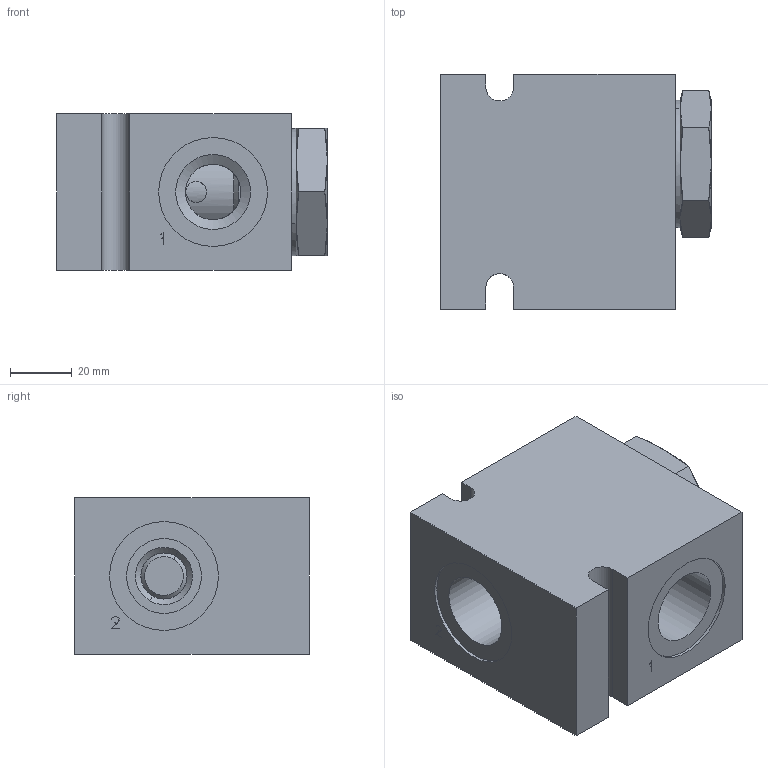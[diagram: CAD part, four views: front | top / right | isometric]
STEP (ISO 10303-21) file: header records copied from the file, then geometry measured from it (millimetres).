
FILE_DESCRIPTION( ( 'Unknown' ), '1' );
FILE_NAME( 'G:/Graphic Design/Graphic Design 2/Data Sheets/MANUAL_MECH OPERATED VALVES/4_STEP/Direct Acting Check Valves/D-SJCVA00-D2.stp', 'Unknown', ( 'Unknown' ), ( 'Unknown' ), 'PSStep 16.0.42', 'Unknown', ' ' );
FILE_SCHEMA( ( 'AUTOMOTIVE_DESIGN { 1 0 10303 214 1 1 1 1 }' ) );
Length unit declared in the file: millimetre
Products named in the file (8): SJCVA00; SJCVA00-3D Full1; SJCVA00-3D Full2; SJCVA00-3D Full3; SJCVA00-3D Full4; Assem1; B-DSJD2
Assembly tree (7 placements, depth 3):
  Assem1
    B-DSJD2
    SJCVA00
      SJCVA00-3D Full1
      SJCVA00-3D Full2
      SJCVA00-3D Full3
      SJCVA00-3D Full4
      SJCVA00-3D Full4
Bounding box: 87.9 x 76.2 x 50.8 mm (x, y, z)
Surface area: 49995.9 mm2 (no closed solid volume)
Topology: 0 solids, 210 shells, 210 faces, 1032 edges, 1005 vertices
Faces by surface type: plane 77, cylinder 62, cone 56, torus 15
Full cylindrical faces by diameter (mm): 0.2 x2, 18 x1, 24.105 x1, 24.3 x4, 25.4 x1, 28.423 x1, 28.651 x1, 31.806 x2, 35.33 x2, 48.514 x1
Entity records: 15594 total; most frequent: CARTESIAN_POINT 6833, DIRECTION 1262, VERTEX_POINT 992, ORIENTED_EDGE 990, EDGE_CURVE 990, AXIS2_PLACEMENT_3D 477, B_SPLINE_CURVE_WITH_KNOTS 424, LINE 308
